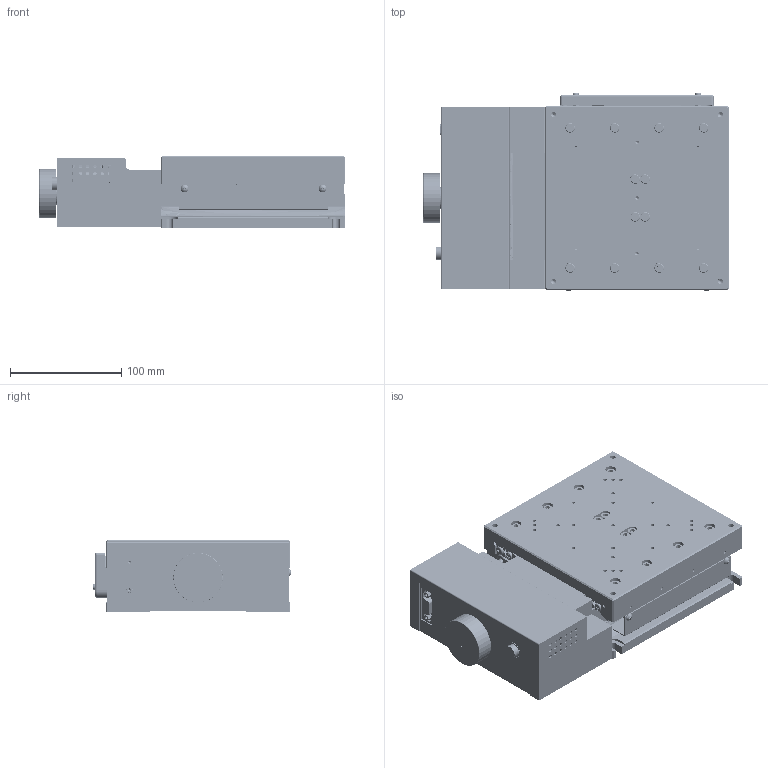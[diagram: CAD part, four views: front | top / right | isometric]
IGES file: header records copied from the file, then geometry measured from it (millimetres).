
Global section: file name: No Iges File Name specified; native system: AutoDesk Inventor R11.0; preprocessor: AutoDesk Inventor Iges Exporter R11.0; author: No Author specified; organization: No Organization specified; date: 20080130.152616; units: millimetre
Bounding box: 274.5 x 178.77 x 65 mm (x, y, z)
Volume: 1509527 mm3; surface area: 494002.8 mm2
Topology: 122 solids, 122 shells, 5119 faces, 12729 edges, 8069 vertices
Faces by surface type: plane 2371, cylinder 881, bspline 855, cone 465, revolution 447, torus 92, sphere 8
